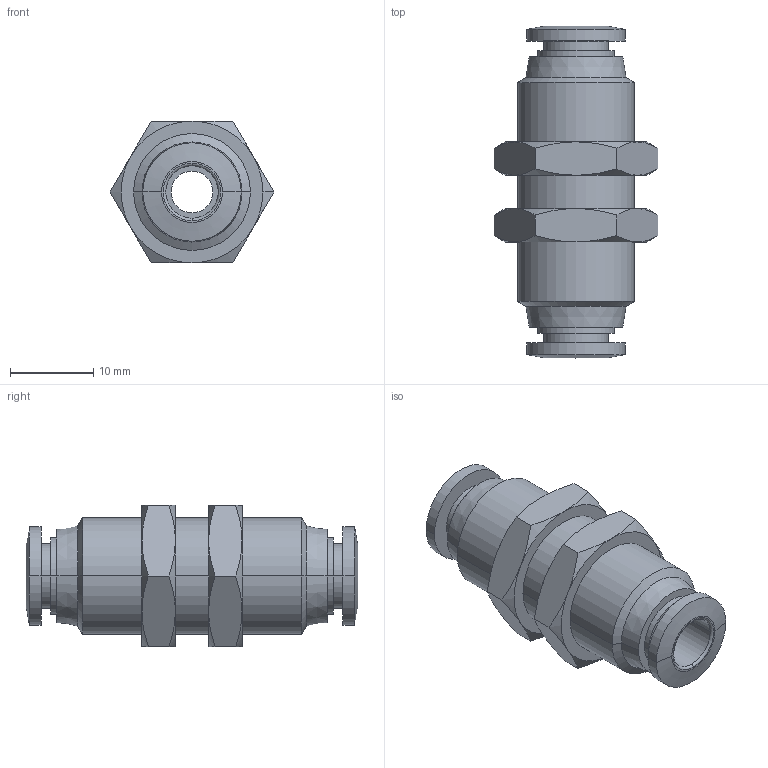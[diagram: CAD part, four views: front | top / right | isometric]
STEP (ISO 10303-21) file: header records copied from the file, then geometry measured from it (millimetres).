
FILE_DESCRIPTION (( 'STEP AP203' ), '1' );
FILE_NAME ('FE06-00.STEP', '2020-05-12T14:03:30', ( '' ), ( '' ), 'SwSTEP 2.0', 'SolidWorks 2019', '' );
FILE_SCHEMA (( 'CONFIG_CONTROL_DESIGN' ));
Length unit declared in the file: millimetre
Products named in the file (1): FE06-00
Bounding box: 19.63 x 39.8 x 17 mm (x, y, z)
Volume: 4882.9 mm3; surface area: 3259.5 mm2
Topology: 1 solids, 1 shells, 94 faces, 200 edges, 120 vertices
Faces by surface type: cone 40, plane 26, cylinder 24, torus 4
Entity records: 2557 total; most frequent: CARTESIAN_POINT 511, DIRECTION 442, ORIENTED_EDGE 400, EDGE_CURVE 200, AXIS2_PLACEMENT_3D 195, VERTEX_POINT 120, EDGE_LOOP 108, CIRCLE 100
